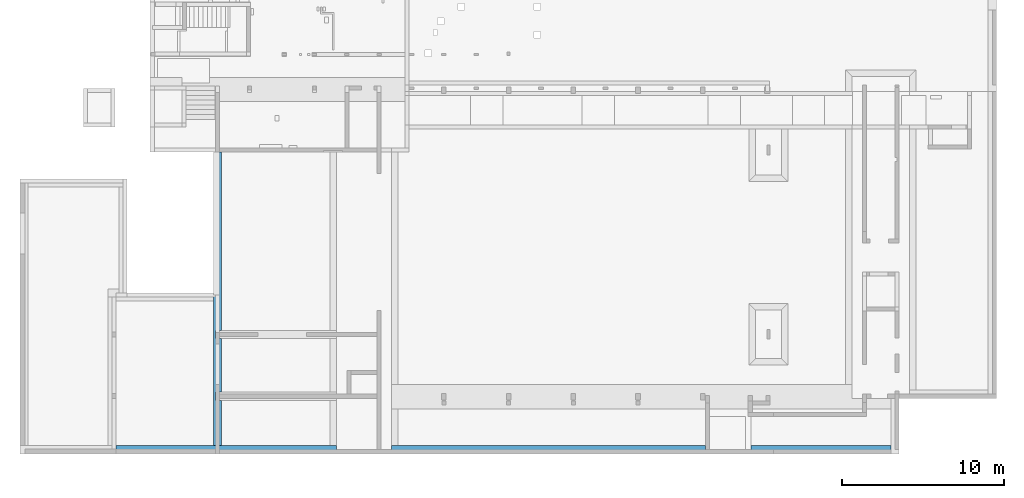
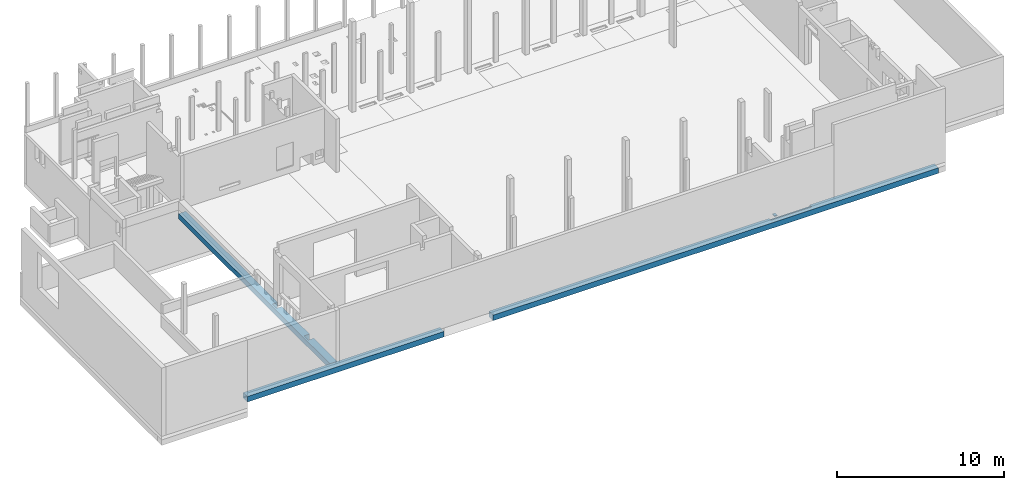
# One storey, part 10 of 12: 2 beams.
"""IFC2X3 building model written with IfcOpenShell, lengths in metres."""

from ifc_helpers import new_model, entity, si_unit, converted_unit, direction, frame, origin, place, context, subcontext, project, spatial, faceted_brep, source, transform, mapped, material, type_object, type_shapes, element, save


model = new_model("IFC2X3")

# Units and contexts
model_context = context("Model", 3, precision=1e-05, world=frame((30.086303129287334, 2.687674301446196, 462.0)), true_north=direction((0.19008937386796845, 0.9817667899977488)))
body_context = subcontext(model_context, "Body", "Model", "MODEL_VIEW")
ifc_project = project(units=[si_unit("LENGTHUNIT", "METRE"), si_unit("AREAUNIT", "SQUARE_METRE"), converted_unit("PLANEANGLEUNIT", "DEGREE", entity("IfcPlaneAngleMeasure", 0.017453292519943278), si_unit("PLANEANGLEUNIT", "RADIAN"), dimensions=[0, 0, 0, 0, 0, 0, 0]), si_unit("VOLUMEUNIT", "CUBIC_METRE")], contexts=[model_context])

# Site, building, storey
site_placement = place(None, origin())
site = spatial("IfcSite", under=ifc_project, at=site_placement, Name="Default", CompositionType="ELEMENT")
building_placement = place(site_placement, origin())
building = spatial("IfcBuilding", under=site, at=building_placement, CompositionType="ELEMENT")
storey_placement = place(building_placement, frame((0.0, 0.0, -3.800000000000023)))
storey = spatial("IfcBuildingStorey", under=building, at=storey_placement, Name="FB_U01_OKFB", CompositionType="ELEMENT", Elevation=-3.800000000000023)

# Beams
ifc_material = material(Name="WS_CONCRETE_REINFORCED_WATERTIGHT")
beam_type_1 = type_object("IfcBeamType", Name="WS_FDN_REC:FDN_REC_500x650_WT", PredefinedType="BEAM")
beam_1_placement = place(storey_placement, frame((49.8553374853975, -23.414655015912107, 3.0300000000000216), z_axis=(0.0, 0.0, 1.0), x_axis=(0.0, -1.0, 0.0)))
element("IfcBeam", 1, at=beam_1_placement, inside=storey, type_object=beam_type_1, material=ifc_material, Name="WS_FDN_REC:FDN_REC_500x650_WT", ObjectType="WS_FDN_REC:FDN_REC_500x650_WT", context=body_context, shape_type="Brep", body=[
    faceted_brep([(0.0, 0.0, 0.0), (0.0, 0.0, 0.4000000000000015), (-8.930006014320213, 0.0, 0.4000000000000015), (-9.430006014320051, 0.0, 0.4000000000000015), (-18.155006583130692, 0.0, 0.4000000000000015), (-18.155006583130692, 0.0, 0.0), (-9.430006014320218, 0.0, 0.0), (-8.930006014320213, 0.0, 0.0), (-2.8050060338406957, 0.12499987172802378, 0.0), (-2.805006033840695, 0.4999999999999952, 0.0), (0.0, 0.5000000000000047, 0.0), (-18.1550065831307, 0.4999999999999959, 0.0), (-7.130007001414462, 0.4999999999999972, 0.0), (-7.130007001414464, 0.12499987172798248, 0.0), (-6.630007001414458, 0.12499987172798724, 0.0), (-6.630007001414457, 0.500000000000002, 0.0), (-3.305006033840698, 0.4999999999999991, 0.0), (-3.3050060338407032, 0.124999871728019, 0.0), (-7.130007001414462, 0.4999999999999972, 0.4000000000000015), (-18.1550065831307, 0.4999999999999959, 0.4000000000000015), (-2.805006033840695, 0.4999999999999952, 0.4000000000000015), (-2.8050060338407, 0.12499987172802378, 0.4000000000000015), (-3.305006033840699, 0.124999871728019, 0.4000000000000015), (-3.3050060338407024, 0.4999999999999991, 0.4000000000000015), (-6.63000700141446, 0.500000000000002, 0.4000000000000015), (-6.6300070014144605, 0.12499987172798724, 0.4000000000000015), (-7.130007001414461, 0.12499987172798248, 0.4000000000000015), (0.0, 0.49999999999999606, 0.4000000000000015)], [[[0, 1, 2, 3, 4, 5, 6, 7]], [[8, 9, 10, 0, 7, 6, 5, 11, 12, 13, 14, 15, 16, 17]], [[18, 12, 11, 19]], [[20, 21, 22, 23, 24, 25, 26, 18, 19, 4, 3, 2, 1, 27]], [[9, 8, 21, 20]], [[17, 16, 23, 22]], [[9, 20, 27, 10]], [[21, 8, 17, 22]], [[1, 0, 10, 27]], [[14, 25, 24, 15]], [[25, 14, 13, 26]], [[26, 13, 12, 18]], [[5, 4, 19, 11]], [[23, 16, 15, 24]]]),
])
beam_type_2 = type_object("IfcBeamType", Name="WS_FDN_REC:FDN_REC_500x650_WT", PredefinedType="BEAM", material=ifc_material)
shared_shape = source(origin(), body_context, "Body", "Brep", [
    faceted_brep([(36.6840319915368, 0.5000000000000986, 0.6499999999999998), (36.6840319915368, 0.2500000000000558, 0.6499999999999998), (36.864031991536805, 0.2500000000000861, 0.6499999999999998), (36.864031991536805, 0.5000000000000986, 0.6499999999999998), (36.6840319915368, 0.5000000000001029, 0.5700000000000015), (36.6840319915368, 0.2500000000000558, 0.5700000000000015), (36.864031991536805, 0.2500000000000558, 0.5699999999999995), (36.864031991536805, 0.5000000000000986, 0.5700000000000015)], [[[0, 1, 2, 3]], [[1, 0, 4, 5]], [[6, 2, 1, 5]], [[5, 4, 7, 6]], [[3, 2, 6, 7]], [[3, 7, 4, 0]]]),
    faceted_brep([(13.629032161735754, 0.0, 0.0), (13.629032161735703, 0.0, 0.4000000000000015), (0.0, 0.0, 0.4000000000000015), (0.0, 0.0, 0.0), (13.629032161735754, 0.5000000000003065, 0.0), (0.0, 0.5000000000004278, 0.0), (6.004032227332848, 0.5000000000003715, 0.0), (6.504032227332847, 0.5000000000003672, 0.0), (0.0, 0.5000000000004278, 0.4000000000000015), (6.004032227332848, 0.5000000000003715, 0.4000000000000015), (6.504032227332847, 0.5000000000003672, 0.4000000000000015), (13.22903216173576, 0.5000000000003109, 0.4000000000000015), (13.629032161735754, 0.5000000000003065, 0.4000000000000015), (0.0, 0.30000000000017, 0.4000000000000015)], [[[0, 1, 2, 3]], [[4, 0, 3, 5, 6, 7]], [[5, 8, 9, 10, 11, 12, 4, 7, 6]], [[8, 5, 3, 2, 13]], [[12, 11, 10, 9, 8, 13, 2, 1]], [[0, 4, 12, 1]]]),
    faceted_brep([(17.02950590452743, 0.5000000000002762, 0.0), (17.02950590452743, 0.0, 0.0), (17.02950590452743, 0.0, 0.4000000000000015), (17.02950590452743, 0.5000000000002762, 0.4000000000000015), (17.429505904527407, 0.5000000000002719, 0.4000000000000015), (36.434031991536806, 0.5000000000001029, 0.4000000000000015), (36.434031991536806, 0.5000000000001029, 0.30000000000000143), (39.239055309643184, 0.5000000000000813, 0.30000000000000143), (39.239055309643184, 0.5000000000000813, 0.4000000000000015), (47.87903347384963, 0.5000000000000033, 0.4000000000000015), (47.87903347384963, 0.5000000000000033, 0.0), (47.87903347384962, 0.0, 0.0), (47.87903347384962, 0.0, 0.4000000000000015), (39.239055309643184, 0.25000000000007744, 0.4000000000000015), (38.889055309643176, 0.25000000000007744, 0.4000000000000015), (36.6840319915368, 0.25000000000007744, 0.4000000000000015), (36.434031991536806, 0.25000000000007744, 0.4000000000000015), (36.434031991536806, 0.25000000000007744, 0.30000000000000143), (39.239055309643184, 0.25000000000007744, 0.30000000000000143)], [[[0, 1, 2, 3]], [[0, 3, 4, 5, 6, 7, 8, 9, 10]], [[2, 1, 11, 12]], [[1, 0, 10, 11]], [[3, 2, 12, 9, 8, 13, 14, 15, 16, 5, 4]], [[17, 18, 7, 6]], [[7, 18, 13, 8]], [[17, 6, 5, 16]], [[18, 17, 16, 15, 14, 13]], [[10, 9, 12, 11]]]),
])
type_shapes(beam_type_2, [shared_shape])
beam_2_placement = place(storey_placement, frame((43.851305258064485, -23.914655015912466, 3.0300000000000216)))
element("IfcBeam", 2, at=beam_2_placement, inside=storey, type_object=beam_type_2, material=ifc_material, Name="WS_FDN_REC:FDN_REC_500x650_WT", ObjectType="WS_FDN_REC:FDN_REC_500x650_WT", context=body_context, shape_type="MappedRepresentation", body=[
    mapped(shared_shape, transform((0.0, 0.0, 0.0), scale=1.0)),
])

save(model, "model.ifc")
